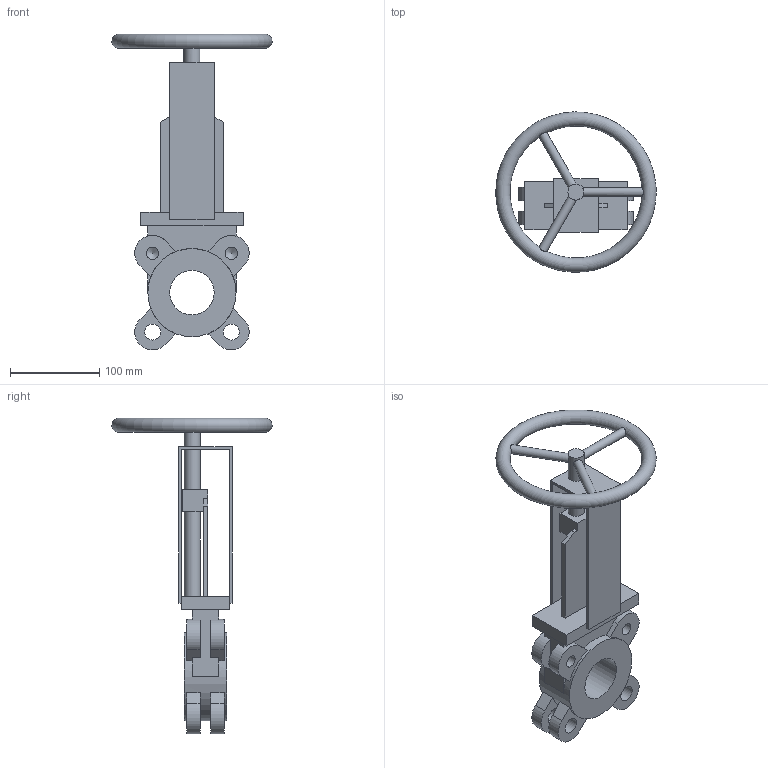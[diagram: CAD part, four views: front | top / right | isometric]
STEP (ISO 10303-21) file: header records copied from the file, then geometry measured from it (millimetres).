
FILE_DESCRIPTION(('STEP AP203'), '1');
FILE_NAME('Çàäâèæêà øèáåðíàÿ ìåæôëàíöåâàÿ K21GV DN50 ', '', ('UNSPECIFIED'), ('UNSPECIFIED'), 'ASCON STEP Converter 1.6', 'ASCON Math Kernel', '');
FILE_SCHEMA(('CONFIG_CONTROL_DESIGN'));
Length unit declared in the file: millimetre
Bounding box: 179.84 x 179.81 x 354.12 mm (x, y, z)
Volume: 849152 mm3; surface area: 178719.1 mm2
Topology: 1 solids, 1 shells, 101 faces, 276 edges, 181 vertices
Faces by surface type: plane 72, cylinder 24, cone 4, torus 1
Full cylindrical faces by diameter (mm): 10 x3, 13.835 x4, 18 x7, 50 x1, 99 x1
Entity records: 5070 total; most frequent: CARTESIAN_POINT 1700, DIRECTION 510, ORIENTED_EDGE 496, EDGE_CURVE 248, VERTEX_POINT 176, LINE 174, VECTOR 174, AXIS2_PLACEMENT_3D 168
